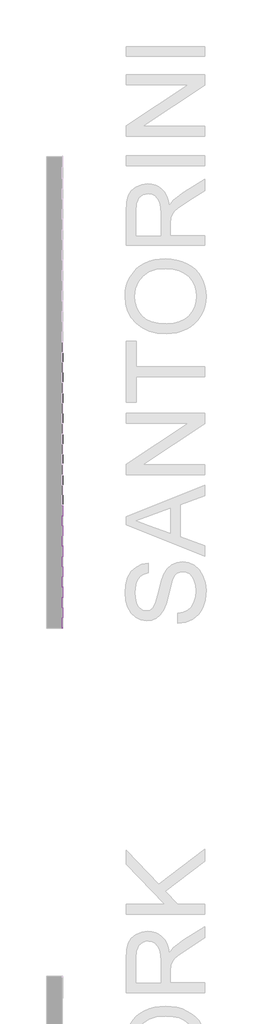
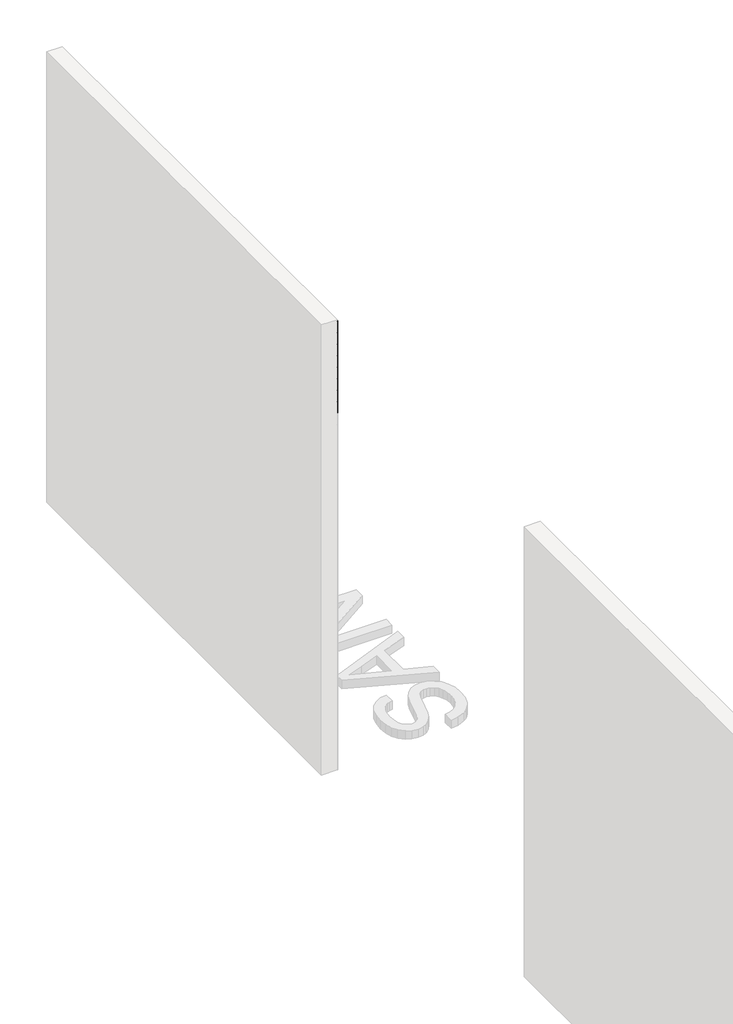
# One storey, part 28 of 45: 147 proxies.
"""IFC4 building model written with IfcOpenShell, lengths in millimetres."""

from ifc_helpers import new_model, si_unit, origin, place, context, project, spatial, transform, mapped, element, save
from components import generic_models_ab0f2c30

model = new_model("IFC4")

# Units and contexts
model_context = context("Model", 3, world=origin())
ifc_project = project(units=[si_unit("LENGTHUNIT", "METRE", prefix="MILLI")], contexts=[model_context])

# Site, building, storey
site = spatial("IfcSite", under=ifc_project)
building = spatial("IfcBuilding", under=site)
storey = spatial("IfcBuildingStorey", under=building, Name="PORTOBELLO - SHOWROOM", Elevation=0.0)

# Proxies
placement = place(None, origin())
generic_models_shape = generic_models_ab0f2c30(model_context)
element("IfcBuildingElementProxy", 1, Name="PBSHOP - HORIZONTES SANTORINI 6,5X23 : SANTORINI", ObjectType="PBSHOP - HORIZONTES SANTORINI 6,5X23 : SANTORINI", at=placement, inside=storey, context=model_context, shape_type="MappedRepresentation", body=[
    mapped(generic_models_shape, transform((69111.8826867, 11194.0312463, 34.5), x_axis=(0.0, 0.0, 1.0), y_axis=(0.0, -1.0, 0.0), z_axis=(1.0, 0.0, 0.0))),
])
element("IfcBuildingElementProxy", 2, Name="PBSHOP - HORIZONTES SANTORINI 6,5X23 : SANTORINI", ObjectType="PBSHOP - HORIZONTES SANTORINI 6,5X23 : SANTORINI", at=placement, inside=storey, context=model_context, shape_type="MappedRepresentation", body=[
    mapped(generic_models_shape, transform((69111.8826867, 11428.0312463, 34.5), x_axis=(0.0, 0.0, 1.0), y_axis=(0.0, -1.0, 0.0), z_axis=(1.0, 0.0, 0.0))),
])
element("IfcBuildingElementProxy", 3, Name="PBSHOP - HORIZONTES SANTORINI 6,5X23 : SANTORINI", ObjectType="PBSHOP - HORIZONTES SANTORINI 6,5X23 : SANTORINI", at=placement, inside=storey, context=model_context, shape_type="MappedRepresentation", body=[
    mapped(generic_models_shape, transform((69111.8826867, 11662.0312463, 34.5), x_axis=(0.0, 0.0, 1.0), y_axis=(0.0, -1.0, 0.0), z_axis=(1.0, 0.0, 0.0))),
])
element("IfcBuildingElementProxy", 4, Name="PBSHOP - HORIZONTES SANTORINI 6,5X23 : SANTORINI", ObjectType="PBSHOP - HORIZONTES SANTORINI 6,5X23 : SANTORINI", at=placement, inside=storey, context=model_context, shape_type="MappedRepresentation", body=[
    mapped(generic_models_shape, transform((69111.8826867, 11896.0312463, 34.5), x_axis=(0.0, 0.0, 1.0), y_axis=(0.0, -1.0, 0.0), z_axis=(1.0, 0.0, 0.0))),
])
element("IfcBuildingElementProxy", 5, Name="PBSHOP - HORIZONTES SANTORINI 6,5X23 : SANTORINI", ObjectType="PBSHOP - HORIZONTES SANTORINI 6,5X23 : SANTORINI", at=placement, inside=storey, context=model_context, shape_type="MappedRepresentation", body=[
    mapped(generic_models_shape, transform((69111.8826867, 11194.0312463, 103.5), x_axis=(0.0, 0.0, 1.0), y_axis=(0.0, -1.0, 0.0), z_axis=(1.0, 0.0, 0.0))),
])
element("IfcBuildingElementProxy", 6, Name="PBSHOP - HORIZONTES SANTORINI 6,5X23 : SANTORINI", ObjectType="PBSHOP - HORIZONTES SANTORINI 6,5X23 : SANTORINI", at=placement, inside=storey, context=model_context, shape_type="MappedRepresentation", body=[
    mapped(generic_models_shape, transform((69111.8826867, 11428.0312463, 103.5), x_axis=(0.0, 0.0, 1.0), y_axis=(0.0, -1.0, 0.0), z_axis=(1.0, 0.0, 0.0))),
])
element("IfcBuildingElementProxy", 7, Name="PBSHOP - HORIZONTES SANTORINI 6,5X23 : SANTORINI", ObjectType="PBSHOP - HORIZONTES SANTORINI 6,5X23 : SANTORINI", at=placement, inside=storey, context=model_context, shape_type="MappedRepresentation", body=[
    mapped(generic_models_shape, transform((69111.8826867, 11662.0312463, 103.5), x_axis=(0.0, 0.0, 1.0), y_axis=(0.0, -1.0, 0.0), z_axis=(1.0, 0.0, 0.0))),
])
element("IfcBuildingElementProxy", 8, Name="PBSHOP - HORIZONTES SANTORINI 6,5X23 : SANTORINI", ObjectType="PBSHOP - HORIZONTES SANTORINI 6,5X23 : SANTORINI", at=placement, inside=storey, context=model_context, shape_type="MappedRepresentation", body=[
    mapped(generic_models_shape, transform((69111.8826867, 11896.0312463, 103.5), x_axis=(0.0, 0.0, 1.0), y_axis=(0.0, -1.0, 0.0), z_axis=(1.0, 0.0, 0.0))),
])
element("IfcBuildingElementProxy", 9, Name="PBSHOP - HORIZONTES SANTORINI 6,5X23 : SANTORINI", ObjectType="PBSHOP - HORIZONTES SANTORINI 6,5X23 : SANTORINI", at=placement, inside=storey, context=model_context, shape_type="MappedRepresentation", body=[
    mapped(generic_models_shape, transform((69111.8826867, 11194.0312463, 172.5), x_axis=(0.0, 0.0, 1.0), y_axis=(0.0, -1.0, 0.0), z_axis=(1.0, 0.0, 0.0))),
])
element("IfcBuildingElementProxy", 10, Name="PBSHOP - HORIZONTES SANTORINI 6,5X23 : SANTORINI", ObjectType="PBSHOP - HORIZONTES SANTORINI 6,5X23 : SANTORINI", at=placement, inside=storey, context=model_context, shape_type="MappedRepresentation", body=[
    mapped(generic_models_shape, transform((69111.8826867, 11428.0312463, 172.5), x_axis=(0.0, 0.0, 1.0), y_axis=(0.0, -1.0, 0.0), z_axis=(1.0, 0.0, 0.0))),
])
element("IfcBuildingElementProxy", 11, Name="PBSHOP - HORIZONTES SANTORINI 6,5X23 : SANTORINI", ObjectType="PBSHOP - HORIZONTES SANTORINI 6,5X23 : SANTORINI", at=placement, inside=storey, context=model_context, shape_type="MappedRepresentation", body=[
    mapped(generic_models_shape, transform((69111.8826867, 11662.0312463, 172.5), x_axis=(0.0, 0.0, 1.0), y_axis=(0.0, -1.0, 0.0), z_axis=(1.0, 0.0, 0.0))),
])
element("IfcBuildingElementProxy", 12, Name="PBSHOP - HORIZONTES SANTORINI 6,5X23 : SANTORINI", ObjectType="PBSHOP - HORIZONTES SANTORINI 6,5X23 : SANTORINI", at=placement, inside=storey, context=model_context, shape_type="MappedRepresentation", body=[
    mapped(generic_models_shape, transform((69111.8826867, 11896.0312463, 172.5), x_axis=(0.0, 0.0, 1.0), y_axis=(0.0, -1.0, 0.0), z_axis=(1.0, 0.0, 0.0))),
])
element("IfcBuildingElementProxy", 13, Name="PBSHOP - HORIZONTES SANTORINI 6,5X23 : SANTORINI", ObjectType="PBSHOP - HORIZONTES SANTORINI 6,5X23 : SANTORINI", at=placement, inside=storey, context=model_context, shape_type="MappedRepresentation", body=[
    mapped(generic_models_shape, transform((69111.8826867, 11194.0312463, 241.5), x_axis=(0.0, 0.0, 1.0), y_axis=(0.0, -1.0, 0.0), z_axis=(1.0, 0.0, 0.0))),
])
element("IfcBuildingElementProxy", 14, Name="PBSHOP - HORIZONTES SANTORINI 6,5X23 : SANTORINI", ObjectType="PBSHOP - HORIZONTES SANTORINI 6,5X23 : SANTORINI", at=placement, inside=storey, context=model_context, shape_type="MappedRepresentation", body=[
    mapped(generic_models_shape, transform((69111.8826867, 11428.0312463, 241.5), x_axis=(0.0, 0.0, 1.0), y_axis=(0.0, -1.0, 0.0), z_axis=(1.0, 0.0, 0.0))),
])
element("IfcBuildingElementProxy", 15, Name="PBSHOP - HORIZONTES SANTORINI 6,5X23 : SANTORINI", ObjectType="PBSHOP - HORIZONTES SANTORINI 6,5X23 : SANTORINI", at=placement, inside=storey, context=model_context, shape_type="MappedRepresentation", body=[
    mapped(generic_models_shape, transform((69111.8826867, 11662.0312463, 241.5), x_axis=(0.0, 0.0, 1.0), y_axis=(0.0, -1.0, 0.0), z_axis=(1.0, 0.0, 0.0))),
])
element("IfcBuildingElementProxy", 16, Name="PBSHOP - HORIZONTES SANTORINI 6,5X23 : SANTORINI", ObjectType="PBSHOP - HORIZONTES SANTORINI 6,5X23 : SANTORINI", at=placement, inside=storey, context=model_context, shape_type="MappedRepresentation", body=[
    mapped(generic_models_shape, transform((69111.8826867, 11896.0312463, 241.5), x_axis=(0.0, 0.0, 1.0), y_axis=(0.0, -1.0, 0.0), z_axis=(1.0, 0.0, 0.0))),
])
element("IfcBuildingElementProxy", 17, Name="PBSHOP - HORIZONTES SANTORINI 6,5X23 : SANTORINI", ObjectType="PBSHOP - HORIZONTES SANTORINI 6,5X23 : SANTORINI", at=placement, inside=storey, context=model_context, shape_type="MappedRepresentation", body=[
    mapped(generic_models_shape, transform((69111.8826867, 11194.0312463, 310.5), x_axis=(0.0, 0.0, 1.0), y_axis=(0.0, -1.0, 0.0), z_axis=(1.0, 0.0, 0.0))),
])
element("IfcBuildingElementProxy", 18, Name="PBSHOP - HORIZONTES SANTORINI 6,5X23 : SANTORINI", ObjectType="PBSHOP - HORIZONTES SANTORINI 6,5X23 : SANTORINI", at=placement, inside=storey, context=model_context, shape_type="MappedRepresentation", body=[
    mapped(generic_models_shape, transform((69111.8826867, 11428.0312463, 310.5), x_axis=(0.0, 0.0, 1.0), y_axis=(0.0, -1.0, 0.0), z_axis=(1.0, 0.0, 0.0))),
])
element("IfcBuildingElementProxy", 19, Name="PBSHOP - HORIZONTES SANTORINI 6,5X23 : SANTORINI", ObjectType="PBSHOP - HORIZONTES SANTORINI 6,5X23 : SANTORINI", at=placement, inside=storey, context=model_context, shape_type="MappedRepresentation", body=[
    mapped(generic_models_shape, transform((69111.8826867, 11662.0312463, 310.5), x_axis=(0.0, 0.0, 1.0), y_axis=(0.0, -1.0, 0.0), z_axis=(1.0, 0.0, 0.0))),
])
element("IfcBuildingElementProxy", 20, Name="PBSHOP - HORIZONTES SANTORINI 6,5X23 : SANTORINI", ObjectType="PBSHOP - HORIZONTES SANTORINI 6,5X23 : SANTORINI", at=placement, inside=storey, context=model_context, shape_type="MappedRepresentation", body=[
    mapped(generic_models_shape, transform((69111.8826867, 11896.0312463, 310.5), x_axis=(0.0, 0.0, 1.0), y_axis=(0.0, -1.0, 0.0), z_axis=(1.0, 0.0, 0.0))),
])
element("IfcBuildingElementProxy", 21, Name="PBSHOP - HORIZONTES SANTORINI 6,5X23 : SANTORINI", ObjectType="PBSHOP - HORIZONTES SANTORINI 6,5X23 : SANTORINI", at=placement, inside=storey, context=model_context, shape_type="MappedRepresentation", body=[
    mapped(generic_models_shape, transform((69111.8826867, 11194.0312463, 379.5), x_axis=(0.0, 0.0, 1.0), y_axis=(0.0, -1.0, 0.0), z_axis=(1.0, 0.0, 0.0))),
])
element("IfcBuildingElementProxy", 22, Name="PBSHOP - HORIZONTES SANTORINI 6,5X23 : SANTORINI", ObjectType="PBSHOP - HORIZONTES SANTORINI 6,5X23 : SANTORINI", at=placement, inside=storey, context=model_context, shape_type="MappedRepresentation", body=[
    mapped(generic_models_shape, transform((69111.8826867, 11428.0312463, 379.5), x_axis=(0.0, 0.0, 1.0), y_axis=(0.0, -1.0, 0.0), z_axis=(1.0, 0.0, 0.0))),
])
element("IfcBuildingElementProxy", 23, Name="PBSHOP - HORIZONTES SANTORINI 6,5X23 : SANTORINI", ObjectType="PBSHOP - HORIZONTES SANTORINI 6,5X23 : SANTORINI", at=placement, inside=storey, context=model_context, shape_type="MappedRepresentation", body=[
    mapped(generic_models_shape, transform((69111.8826867, 11662.0312463, 379.5), x_axis=(0.0, 0.0, 1.0), y_axis=(0.0, -1.0, 0.0), z_axis=(1.0, 0.0, 0.0))),
])
element("IfcBuildingElementProxy", 24, Name="PBSHOP - HORIZONTES SANTORINI 6,5X23 : SANTORINI", ObjectType="PBSHOP - HORIZONTES SANTORINI 6,5X23 : SANTORINI", at=placement, inside=storey, context=model_context, shape_type="MappedRepresentation", body=[
    mapped(generic_models_shape, transform((69111.8826867, 11896.0312463, 379.5), x_axis=(0.0, 0.0, 1.0), y_axis=(0.0, -1.0, 0.0), z_axis=(1.0, 0.0, 0.0))),
])
element("IfcBuildingElementProxy", 25, Name="PBSHOP - HORIZONTES SANTORINI 6,5X23 : SANTORINI", ObjectType="PBSHOP - HORIZONTES SANTORINI 6,5X23 : SANTORINI", at=placement, inside=storey, context=model_context, shape_type="MappedRepresentation", body=[
    mapped(generic_models_shape, transform((69111.8826867, 11194.0312463, 448.5), x_axis=(0.0, 0.0, 1.0), y_axis=(0.0, -1.0, 0.0), z_axis=(1.0, 0.0, 0.0))),
])
element("IfcBuildingElementProxy", 26, Name="PBSHOP - HORIZONTES SANTORINI 6,5X23 : SANTORINI", ObjectType="PBSHOP - HORIZONTES SANTORINI 6,5X23 : SANTORINI", at=placement, inside=storey, context=model_context, shape_type="MappedRepresentation", body=[
    mapped(generic_models_shape, transform((69111.8826867, 11428.0312463, 448.5), x_axis=(0.0, 0.0, 1.0), y_axis=(0.0, -1.0, 0.0), z_axis=(1.0, 0.0, 0.0))),
])
element("IfcBuildingElementProxy", 27, Name="PBSHOP - HORIZONTES SANTORINI 6,5X23 : SANTORINI", ObjectType="PBSHOP - HORIZONTES SANTORINI 6,5X23 : SANTORINI", at=placement, inside=storey, context=model_context, shape_type="MappedRepresentation", body=[
    mapped(generic_models_shape, transform((69111.8826867, 11662.0312463, 448.5), x_axis=(0.0, 0.0, 1.0), y_axis=(0.0, -1.0, 0.0), z_axis=(1.0, 0.0, 0.0))),
])
element("IfcBuildingElementProxy", 28, Name="PBSHOP - HORIZONTES SANTORINI 6,5X23 : SANTORINI", ObjectType="PBSHOP - HORIZONTES SANTORINI 6,5X23 : SANTORINI", at=placement, inside=storey, context=model_context, shape_type="MappedRepresentation", body=[
    mapped(generic_models_shape, transform((69111.8826867, 11896.0312463, 448.5), x_axis=(0.0, 0.0, 1.0), y_axis=(0.0, -1.0, 0.0), z_axis=(1.0, 0.0, 0.0))),
])
element("IfcBuildingElementProxy", 29, Name="PBSHOP - HORIZONTES SANTORINI 6,5X23 : SANTORINI", ObjectType="PBSHOP - HORIZONTES SANTORINI 6,5X23 : SANTORINI", at=placement, inside=storey, context=model_context, shape_type="MappedRepresentation", body=[
    mapped(generic_models_shape, transform((69111.8826867, 11194.0312463, 517.5), x_axis=(0.0, 0.0, 1.0), y_axis=(0.0, -1.0, 0.0), z_axis=(1.0, 0.0, 0.0))),
])
element("IfcBuildingElementProxy", 30, Name="PBSHOP - HORIZONTES SANTORINI 6,5X23 : SANTORINI", ObjectType="PBSHOP - HORIZONTES SANTORINI 6,5X23 : SANTORINI", at=placement, inside=storey, context=model_context, shape_type="MappedRepresentation", body=[
    mapped(generic_models_shape, transform((69111.8826867, 11428.0312463, 517.5), x_axis=(0.0, 0.0, 1.0), y_axis=(0.0, -1.0, 0.0), z_axis=(1.0, 0.0, 0.0))),
])
element("IfcBuildingElementProxy", 31, Name="PBSHOP - HORIZONTES SANTORINI 6,5X23 : SANTORINI", ObjectType="PBSHOP - HORIZONTES SANTORINI 6,5X23 : SANTORINI", at=placement, inside=storey, context=model_context, shape_type="MappedRepresentation", body=[
    mapped(generic_models_shape, transform((69111.8826867, 11662.0312463, 517.5), x_axis=(0.0, 0.0, 1.0), y_axis=(0.0, -1.0, 0.0), z_axis=(1.0, 0.0, 0.0))),
])
element("IfcBuildingElementProxy", 32, Name="PBSHOP - HORIZONTES SANTORINI 6,5X23 : SANTORINI", ObjectType="PBSHOP - HORIZONTES SANTORINI 6,5X23 : SANTORINI", at=placement, inside=storey, context=model_context, shape_type="MappedRepresentation", body=[
    mapped(generic_models_shape, transform((69111.8826867, 11896.0312463, 517.5), x_axis=(0.0, 0.0, 1.0), y_axis=(0.0, -1.0, 0.0), z_axis=(1.0, 0.0, 0.0))),
])
element("IfcBuildingElementProxy", 33, Name="PBSHOP - HORIZONTES SANTORINI 6,5X23 : SANTORINI", ObjectType="PBSHOP - HORIZONTES SANTORINI 6,5X23 : SANTORINI", at=placement, inside=storey, context=model_context, shape_type="MappedRepresentation", body=[
    mapped(generic_models_shape, transform((69111.8826867, 11194.0312463, 586.5), x_axis=(0.0, 0.0, 1.0), y_axis=(0.0, -1.0, 0.0), z_axis=(1.0, 0.0, 0.0))),
])
element("IfcBuildingElementProxy", 34, Name="PBSHOP - HORIZONTES SANTORINI 6,5X23 : SANTORINI", ObjectType="PBSHOP - HORIZONTES SANTORINI 6,5X23 : SANTORINI", at=placement, inside=storey, context=model_context, shape_type="MappedRepresentation", body=[
    mapped(generic_models_shape, transform((69111.8826867, 11428.0312463, 586.5), x_axis=(0.0, 0.0, 1.0), y_axis=(0.0, -1.0, 0.0), z_axis=(1.0, 0.0, 0.0))),
])
element("IfcBuildingElementProxy", 35, Name="PBSHOP - HORIZONTES SANTORINI 6,5X23 : SANTORINI", ObjectType="PBSHOP - HORIZONTES SANTORINI 6,5X23 : SANTORINI", at=placement, inside=storey, context=model_context, shape_type="MappedRepresentation", body=[
    mapped(generic_models_shape, transform((69111.8826867, 11662.0312463, 586.5), x_axis=(0.0, 0.0, 1.0), y_axis=(0.0, -1.0, 0.0), z_axis=(1.0, 0.0, 0.0))),
])
element("IfcBuildingElementProxy", 36, Name="PBSHOP - HORIZONTES SANTORINI 6,5X23 : SANTORINI", ObjectType="PBSHOP - HORIZONTES SANTORINI 6,5X23 : SANTORINI", at=placement, inside=storey, context=model_context, shape_type="MappedRepresentation", body=[
    mapped(generic_models_shape, transform((69111.8826867, 11896.0312463, 586.5), x_axis=(0.0, 0.0, 1.0), y_axis=(0.0, -1.0, 0.0), z_axis=(1.0, 0.0, 0.0))),
])
element("IfcBuildingElementProxy", 37, Name="PBSHOP - HORIZONTES SANTORINI 6,5X23 : SANTORINI", ObjectType="PBSHOP - HORIZONTES SANTORINI 6,5X23 : SANTORINI", at=placement, inside=storey, context=model_context, shape_type="MappedRepresentation", body=[
    mapped(generic_models_shape, transform((69111.8826867, 11194.0312463, 655.5), x_axis=(0.0, 0.0, 1.0), y_axis=(0.0, -1.0, 0.0), z_axis=(1.0, 0.0, 0.0))),
])
element("IfcBuildingElementProxy", 38, Name="PBSHOP - HORIZONTES SANTORINI 6,5X23 : SANTORINI", ObjectType="PBSHOP - HORIZONTES SANTORINI 6,5X23 : SANTORINI", at=placement, inside=storey, context=model_context, shape_type="MappedRepresentation", body=[
    mapped(generic_models_shape, transform((69111.8826867, 11428.0312463, 655.5), x_axis=(0.0, 0.0, 1.0), y_axis=(0.0, -1.0, 0.0), z_axis=(1.0, 0.0, 0.0))),
])
element("IfcBuildingElementProxy", 39, Name="PBSHOP - HORIZONTES SANTORINI 6,5X23 : SANTORINI", ObjectType="PBSHOP - HORIZONTES SANTORINI 6,5X23 : SANTORINI", at=placement, inside=storey, context=model_context, shape_type="MappedRepresentation", body=[
    mapped(generic_models_shape, transform((69111.8826867, 11662.0312463, 655.5), x_axis=(0.0, 0.0, 1.0), y_axis=(0.0, -1.0, 0.0), z_axis=(1.0, 0.0, 0.0))),
])
element("IfcBuildingElementProxy", 40, Name="PBSHOP - HORIZONTES SANTORINI 6,5X23 : SANTORINI", ObjectType="PBSHOP - HORIZONTES SANTORINI 6,5X23 : SANTORINI", at=placement, inside=storey, context=model_context, shape_type="MappedRepresentation", body=[
    mapped(generic_models_shape, transform((69111.8826867, 11896.0312463, 655.5), x_axis=(0.0, 0.0, 1.0), y_axis=(0.0, -1.0, 0.0), z_axis=(1.0, 0.0, 0.0))),
])
element("IfcBuildingElementProxy", 41, Name="PBSHOP - HORIZONTES SANTORINI 6,5X23 : SANTORINI", ObjectType="PBSHOP - HORIZONTES SANTORINI 6,5X23 : SANTORINI", at=placement, inside=storey, context=model_context, shape_type="MappedRepresentation", body=[
    mapped(generic_models_shape, transform((69111.8826867, 11194.0312463, 724.5), x_axis=(0.0, 0.0, 1.0), y_axis=(0.0, -1.0, 0.0), z_axis=(1.0, 0.0, 0.0))),
])
element("IfcBuildingElementProxy", 42, Name="PBSHOP - HORIZONTES SANTORINI 6,5X23 : SANTORINI", ObjectType="PBSHOP - HORIZONTES SANTORINI 6,5X23 : SANTORINI", at=placement, inside=storey, context=model_context, shape_type="MappedRepresentation", body=[
    mapped(generic_models_shape, transform((69111.8826867, 11428.0312463, 724.5), x_axis=(0.0, 0.0, 1.0), y_axis=(0.0, -1.0, 0.0), z_axis=(1.0, 0.0, 0.0))),
])
element("IfcBuildingElementProxy", 43, Name="PBSHOP - HORIZONTES SANTORINI 6,5X23 : SANTORINI", ObjectType="PBSHOP - HORIZONTES SANTORINI 6,5X23 : SANTORINI", at=placement, inside=storey, context=model_context, shape_type="MappedRepresentation", body=[
    mapped(generic_models_shape, transform((69111.8826867, 11662.0312463, 724.5), x_axis=(0.0, 0.0, 1.0), y_axis=(0.0, -1.0, 0.0), z_axis=(1.0, 0.0, 0.0))),
])
element("IfcBuildingElementProxy", 44, Name="PBSHOP - HORIZONTES SANTORINI 6,5X23 : SANTORINI", ObjectType="PBSHOP - HORIZONTES SANTORINI 6,5X23 : SANTORINI", at=placement, inside=storey, context=model_context, shape_type="MappedRepresentation", body=[
    mapped(generic_models_shape, transform((69111.8826867, 11896.0312463, 724.5), x_axis=(0.0, 0.0, 1.0), y_axis=(0.0, -1.0, 0.0), z_axis=(1.0, 0.0, 0.0))),
])
element("IfcBuildingElementProxy", 45, Name="PBSHOP - HORIZONTES SANTORINI 6,5X23 : SANTORINI", ObjectType="PBSHOP - HORIZONTES SANTORINI 6,5X23 : SANTORINI", at=placement, inside=storey, context=model_context, shape_type="MappedRepresentation", body=[
    mapped(generic_models_shape, transform((69111.8826867, 11194.0312463, 793.5), x_axis=(0.0, 0.0, 1.0), y_axis=(0.0, -1.0, 0.0), z_axis=(1.0, 0.0, 0.0))),
])
element("IfcBuildingElementProxy", 46, Name="PBSHOP - HORIZONTES SANTORINI 6,5X23 : SANTORINI", ObjectType="PBSHOP - HORIZONTES SANTORINI 6,5X23 : SANTORINI", at=placement, inside=storey, context=model_context, shape_type="MappedRepresentation", body=[
    mapped(generic_models_shape, transform((69111.8826867, 11428.0312463, 793.5), x_axis=(0.0, 0.0, 1.0), y_axis=(0.0, -1.0, 0.0), z_axis=(1.0, 0.0, 0.0))),
])
element("IfcBuildingElementProxy", 47, Name="PBSHOP - HORIZONTES SANTORINI 6,5X23 : SANTORINI", ObjectType="PBSHOP - HORIZONTES SANTORINI 6,5X23 : SANTORINI", at=placement, inside=storey, context=model_context, shape_type="MappedRepresentation", body=[
    mapped(generic_models_shape, transform((69111.8826867, 11662.0312463, 793.5), x_axis=(0.0, 0.0, 1.0), y_axis=(0.0, -1.0, 0.0), z_axis=(1.0, 0.0, 0.0))),
])
element("IfcBuildingElementProxy", 48, Name="PBSHOP - HORIZONTES SANTORINI 6,5X23 : SANTORINI", ObjectType="PBSHOP - HORIZONTES SANTORINI 6,5X23 : SANTORINI", at=placement, inside=storey, context=model_context, shape_type="MappedRepresentation", body=[
    mapped(generic_models_shape, transform((69111.8826867, 11896.0312463, 793.5), x_axis=(0.0, 0.0, 1.0), y_axis=(0.0, -1.0, 0.0), z_axis=(1.0, 0.0, 0.0))),
])
element("IfcBuildingElementProxy", 49, Name="PBSHOP - HORIZONTES SANTORINI 6,5X23 : SANTORINI", ObjectType="PBSHOP - HORIZONTES SANTORINI 6,5X23 : SANTORINI", at=placement, inside=storey, context=model_context, shape_type="MappedRepresentation", body=[
    mapped(generic_models_shape, transform((69111.8826867, 11194.0312463, 862.5), x_axis=(0.0, 0.0, 1.0), y_axis=(0.0, -1.0, 0.0), z_axis=(1.0, 0.0, 0.0))),
])
element("IfcBuildingElementProxy", 50, Name="PBSHOP - HORIZONTES SANTORINI 6,5X23 : SANTORINI", ObjectType="PBSHOP - HORIZONTES SANTORINI 6,5X23 : SANTORINI", at=placement, inside=storey, context=model_context, shape_type="MappedRepresentation", body=[
    mapped(generic_models_shape, transform((69111.8826867, 11428.0312463, 862.5), x_axis=(0.0, 0.0, 1.0), y_axis=(0.0, -1.0, 0.0), z_axis=(1.0, 0.0, 0.0))),
])
element("IfcBuildingElementProxy", 51, Name="PBSHOP - HORIZONTES SANTORINI 6,5X23 : SANTORINI", ObjectType="PBSHOP - HORIZONTES SANTORINI 6,5X23 : SANTORINI", at=placement, inside=storey, context=model_context, shape_type="MappedRepresentation", body=[
    mapped(generic_models_shape, transform((69111.8826867, 11662.0312463, 862.5), x_axis=(0.0, 0.0, 1.0), y_axis=(0.0, -1.0, 0.0), z_axis=(1.0, 0.0, 0.0))),
])
element("IfcBuildingElementProxy", 52, Name="PBSHOP - HORIZONTES SANTORINI 6,5X23 : SANTORINI", ObjectType="PBSHOP - HORIZONTES SANTORINI 6,5X23 : SANTORINI", at=placement, inside=storey, context=model_context, shape_type="MappedRepresentation", body=[
    mapped(generic_models_shape, transform((69111.8826867, 11896.0312463, 862.5), x_axis=(0.0, 0.0, 1.0), y_axis=(0.0, -1.0, 0.0), z_axis=(1.0, 0.0, 0.0))),
])
element("IfcBuildingElementProxy", 53, Name="PBSHOP - HORIZONTES SANTORINI 6,5X23 : SANTORINI", ObjectType="PBSHOP - HORIZONTES SANTORINI 6,5X23 : SANTORINI", at=placement, inside=storey, context=model_context, shape_type="MappedRepresentation", body=[
    mapped(generic_models_shape, transform((69111.8826867, 11194.0312463, 931.5), x_axis=(0.0, 0.0, 1.0), y_axis=(0.0, -1.0, 0.0), z_axis=(1.0, 0.0, 0.0))),
])
element("IfcBuildingElementProxy", 54, Name="PBSHOP - HORIZONTES SANTORINI 6,5X23 : SANTORINI", ObjectType="PBSHOP - HORIZONTES SANTORINI 6,5X23 : SANTORINI", at=placement, inside=storey, context=model_context, shape_type="MappedRepresentation", body=[
    mapped(generic_models_shape, transform((69111.8826867, 11428.0312463, 931.5), x_axis=(0.0, 0.0, 1.0), y_axis=(0.0, -1.0, 0.0), z_axis=(1.0, 0.0, 0.0))),
])
element("IfcBuildingElementProxy", 55, Name="PBSHOP - HORIZONTES SANTORINI 6,5X23 : SANTORINI", ObjectType="PBSHOP - HORIZONTES SANTORINI 6,5X23 : SANTORINI", at=placement, inside=storey, context=model_context, shape_type="MappedRepresentation", body=[
    mapped(generic_models_shape, transform((69111.8826867, 11662.0312463, 931.5), x_axis=(0.0, 0.0, 1.0), y_axis=(0.0, -1.0, 0.0), z_axis=(1.0, 0.0, 0.0))),
])
element("IfcBuildingElementProxy", 56, Name="PBSHOP - HORIZONTES SANTORINI 6,5X23 : SANTORINI", ObjectType="PBSHOP - HORIZONTES SANTORINI 6,5X23 : SANTORINI", at=placement, inside=storey, context=model_context, shape_type="MappedRepresentation", body=[
    mapped(generic_models_shape, transform((69111.8826867, 11896.0312463, 931.5), x_axis=(0.0, 0.0, 1.0), y_axis=(0.0, -1.0, 0.0), z_axis=(1.0, 0.0, 0.0))),
])
element("IfcBuildingElementProxy", 57, Name="PBSHOP - HORIZONTES SANTORINI 6,5X23 : SANTORINI", ObjectType="PBSHOP - HORIZONTES SANTORINI 6,5X23 : SANTORINI", at=placement, inside=storey, context=model_context, shape_type="MappedRepresentation", body=[
    mapped(generic_models_shape, transform((69111.8826867, 11194.0312463, 1000.5), x_axis=(0.0, 0.0, 1.0), y_axis=(0.0, -1.0, 0.0), z_axis=(1.0, 0.0, 0.0))),
])
element("IfcBuildingElementProxy", 58, Name="PBSHOP - HORIZONTES SANTORINI 6,5X23 : SANTORINI", ObjectType="PBSHOP - HORIZONTES SANTORINI 6,5X23 : SANTORINI", at=placement, inside=storey, context=model_context, shape_type="MappedRepresentation", body=[
    mapped(generic_models_shape, transform((69111.8826867, 11428.0312463, 1000.5), x_axis=(0.0, 0.0, 1.0), y_axis=(0.0, -1.0, 0.0), z_axis=(1.0, 0.0, 0.0))),
])
element("IfcBuildingElementProxy", 59, Name="PBSHOP - HORIZONTES SANTORINI 6,5X23 : SANTORINI", ObjectType="PBSHOP - HORIZONTES SANTORINI 6,5X23 : SANTORINI", at=placement, inside=storey, context=model_context, shape_type="MappedRepresentation", body=[
    mapped(generic_models_shape, transform((69111.8826867, 11662.0312463, 1000.5), x_axis=(0.0, 0.0, 1.0), y_axis=(0.0, -1.0, 0.0), z_axis=(1.0, 0.0, 0.0))),
])
element("IfcBuildingElementProxy", 60, Name="PBSHOP - HORIZONTES SANTORINI 6,5X23 : SANTORINI", ObjectType="PBSHOP - HORIZONTES SANTORINI 6,5X23 : SANTORINI", at=placement, inside=storey, context=model_context, shape_type="MappedRepresentation", body=[
    mapped(generic_models_shape, transform((69111.8826867, 11896.0312463, 1000.5), x_axis=(0.0, 0.0, 1.0), y_axis=(0.0, -1.0, 0.0), z_axis=(1.0, 0.0, 0.0))),
])
element("IfcBuildingElementProxy", 61, Name="PBSHOP - HORIZONTES SANTORINI 6,5X23 : SANTORINI", ObjectType="PBSHOP - HORIZONTES SANTORINI 6,5X23 : SANTORINI", at=placement, inside=storey, context=model_context, shape_type="MappedRepresentation", body=[
    mapped(generic_models_shape, transform((69111.8826867, 11194.0312463, 1069.5), x_axis=(0.0, 0.0, 1.0), y_axis=(0.0, -1.0, 0.0), z_axis=(1.0, 0.0, 0.0))),
])
element("IfcBuildingElementProxy", 62, Name="PBSHOP - HORIZONTES SANTORINI 6,5X23 : SANTORINI", ObjectType="PBSHOP - HORIZONTES SANTORINI 6,5X23 : SANTORINI", at=placement, inside=storey, context=model_context, shape_type="MappedRepresentation", body=[
    mapped(generic_models_shape, transform((69111.8826867, 11428.0312463, 1069.5), x_axis=(0.0, 0.0, 1.0), y_axis=(0.0, -1.0, 0.0), z_axis=(1.0, 0.0, 0.0))),
])
element("IfcBuildingElementProxy", 63, Name="PBSHOP - HORIZONTES SANTORINI 6,5X23 : SANTORINI", ObjectType="PBSHOP - HORIZONTES SANTORINI 6,5X23 : SANTORINI", at=placement, inside=storey, context=model_context, shape_type="MappedRepresentation", body=[
    mapped(generic_models_shape, transform((69111.8826867, 11662.0312463, 1069.5), x_axis=(0.0, 0.0, 1.0), y_axis=(0.0, -1.0, 0.0), z_axis=(1.0, 0.0, 0.0))),
])
element("IfcBuildingElementProxy", 64, Name="PBSHOP - HORIZONTES SANTORINI 6,5X23 : SANTORINI", ObjectType="PBSHOP - HORIZONTES SANTORINI 6,5X23 : SANTORINI", at=placement, inside=storey, context=model_context, shape_type="MappedRepresentation", body=[
    mapped(generic_models_shape, transform((69111.8826867, 11896.0312463, 1069.5), x_axis=(0.0, 0.0, 1.0), y_axis=(0.0, -1.0, 0.0), z_axis=(1.0, 0.0, 0.0))),
])
element("IfcBuildingElementProxy", 65, Name="PBSHOP - HORIZONTES SANTORINI 6,5X23 : SANTORINI", ObjectType="PBSHOP - HORIZONTES SANTORINI 6,5X23 : SANTORINI", at=placement, inside=storey, context=model_context, shape_type="MappedRepresentation", body=[
    mapped(generic_models_shape, transform((69111.8826867, 11194.0312463, 1138.5), x_axis=(0.0, 0.0, 1.0), y_axis=(0.0, -1.0, 0.0), z_axis=(1.0, 0.0, 0.0))),
])
element("IfcBuildingElementProxy", 66, Name="PBSHOP - HORIZONTES SANTORINI 6,5X23 : SANTORINI", ObjectType="PBSHOP - HORIZONTES SANTORINI 6,5X23 : SANTORINI", at=placement, inside=storey, context=model_context, shape_type="MappedRepresentation", body=[
    mapped(generic_models_shape, transform((69111.8826867, 11428.0312463, 1138.5), x_axis=(0.0, 0.0, 1.0), y_axis=(0.0, -1.0, 0.0), z_axis=(1.0, 0.0, 0.0))),
])
element("IfcBuildingElementProxy", 67, Name="PBSHOP - HORIZONTES SANTORINI 6,5X23 : SANTORINI", ObjectType="PBSHOP - HORIZONTES SANTORINI 6,5X23 : SANTORINI", at=placement, inside=storey, context=model_context, shape_type="MappedRepresentation", body=[
    mapped(generic_models_shape, transform((69111.8826867, 11662.0312463, 1138.5), x_axis=(0.0, 0.0, 1.0), y_axis=(0.0, -1.0, 0.0), z_axis=(1.0, 0.0, 0.0))),
])
element("IfcBuildingElementProxy", 68, Name="PBSHOP - HORIZONTES SANTORINI 6,5X23 : SANTORINI", ObjectType="PBSHOP - HORIZONTES SANTORINI 6,5X23 : SANTORINI", at=placement, inside=storey, context=model_context, shape_type="MappedRepresentation", body=[
    mapped(generic_models_shape, transform((69111.8826867, 11896.0312463, 1138.5), x_axis=(0.0, 0.0, 1.0), y_axis=(0.0, -1.0, 0.0), z_axis=(1.0, 0.0, 0.0))),
])
element("IfcBuildingElementProxy", 69, Name="PBSHOP - HORIZONTES SANTORINI 6,5X23 : SANTORINI", ObjectType="PBSHOP - HORIZONTES SANTORINI 6,5X23 : SANTORINI", at=placement, inside=storey, context=model_context, shape_type="MappedRepresentation", body=[
    mapped(generic_models_shape, transform((69111.8826867, 11194.0312463, 1207.5), x_axis=(0.0, 0.0, 1.0), y_axis=(0.0, -1.0, 0.0), z_axis=(1.0, 0.0, 0.0))),
])
element("IfcBuildingElementProxy", 70, Name="PBSHOP - HORIZONTES SANTORINI 6,5X23 : SANTORINI", ObjectType="PBSHOP - HORIZONTES SANTORINI 6,5X23 : SANTORINI", at=placement, inside=storey, context=model_context, shape_type="MappedRepresentation", body=[
    mapped(generic_models_shape, transform((69111.8826867, 11428.0312463, 1207.5), x_axis=(0.0, 0.0, 1.0), y_axis=(0.0, -1.0, 0.0), z_axis=(1.0, 0.0, 0.0))),
])
element("IfcBuildingElementProxy", 71, Name="PBSHOP - HORIZONTES SANTORINI 6,5X23 : SANTORINI", ObjectType="PBSHOP - HORIZONTES SANTORINI 6,5X23 : SANTORINI", at=placement, inside=storey, context=model_context, shape_type="MappedRepresentation", body=[
    mapped(generic_models_shape, transform((69111.8826867, 11662.0312463, 1207.5), x_axis=(0.0, 0.0, 1.0), y_axis=(0.0, -1.0, 0.0), z_axis=(1.0, 0.0, 0.0))),
])
element("IfcBuildingElementProxy", 72, Name="PBSHOP - HORIZONTES SANTORINI 6,5X23 : SANTORINI", ObjectType="PBSHOP - HORIZONTES SANTORINI 6,5X23 : SANTORINI", at=placement, inside=storey, context=model_context, shape_type="MappedRepresentation", body=[
    mapped(generic_models_shape, transform((69111.8826867, 11896.0312463, 1207.5), x_axis=(0.0, 0.0, 1.0), y_axis=(0.0, -1.0, 0.0), z_axis=(1.0, 0.0, 0.0))),
])
element("IfcBuildingElementProxy", 73, Name="PBSHOP - HORIZONTES SANTORINI 6,5X23 : SANTORINI", ObjectType="PBSHOP - HORIZONTES SANTORINI 6,5X23 : SANTORINI", at=placement, inside=storey, context=model_context, shape_type="MappedRepresentation", body=[
    mapped(generic_models_shape, transform((69111.8826867, 11194.0312463, 1276.5), x_axis=(0.0, 0.0, 1.0), y_axis=(0.0, -1.0, 0.0), z_axis=(1.0, 0.0, 0.0))),
])
element("IfcBuildingElementProxy", 74, Name="PBSHOP - HORIZONTES SANTORINI 6,5X23 : SANTORINI", ObjectType="PBSHOP - HORIZONTES SANTORINI 6,5X23 : SANTORINI", at=placement, inside=storey, context=model_context, shape_type="MappedRepresentation", body=[
    mapped(generic_models_shape, transform((69111.8826867, 11428.0312463, 1276.5), x_axis=(0.0, 0.0, 1.0), y_axis=(0.0, -1.0, 0.0), z_axis=(1.0, 0.0, 0.0))),
])
element("IfcBuildingElementProxy", 75, Name="PBSHOP - HORIZONTES SANTORINI 6,5X23 : SANTORINI", ObjectType="PBSHOP - HORIZONTES SANTORINI 6,5X23 : SANTORINI", at=placement, inside=storey, context=model_context, shape_type="MappedRepresentation", body=[
    mapped(generic_models_shape, transform((69111.8826867, 11662.0312463, 1276.5), x_axis=(0.0, 0.0, 1.0), y_axis=(0.0, -1.0, 0.0), z_axis=(1.0, 0.0, 0.0))),
])
element("IfcBuildingElementProxy", 76, Name="PBSHOP - HORIZONTES SANTORINI 6,5X23 : SANTORINI", ObjectType="PBSHOP - HORIZONTES SANTORINI 6,5X23 : SANTORINI", at=placement, inside=storey, context=model_context, shape_type="MappedRepresentation", body=[
    mapped(generic_models_shape, transform((69111.8826867, 11896.0312463, 1276.5), x_axis=(0.0, 0.0, 1.0), y_axis=(0.0, -1.0, 0.0), z_axis=(1.0, 0.0, 0.0))),
])
element("IfcBuildingElementProxy", 77, Name="PBSHOP - HORIZONTES SANTORINI 6,5X23 : SANTORINI", ObjectType="PBSHOP - HORIZONTES SANTORINI 6,5X23 : SANTORINI", at=placement, inside=storey, context=model_context, shape_type="MappedRepresentation", body=[
    mapped(generic_models_shape, transform((69111.8826867, 11194.0312463, 1345.5), x_axis=(0.0, 0.0, 1.0), y_axis=(0.0, -1.0, 0.0), z_axis=(1.0, 0.0, 0.0))),
])
element("IfcBuildingElementProxy", 78, Name="PBSHOP - HORIZONTES SANTORINI 6,5X23 : SANTORINI", ObjectType="PBSHOP - HORIZONTES SANTORINI 6,5X23 : SANTORINI", at=placement, inside=storey, context=model_context, shape_type="MappedRepresentation", body=[
    mapped(generic_models_shape, transform((69111.8826867, 11428.0312463, 1345.5), x_axis=(0.0, 0.0, 1.0), y_axis=(0.0, -1.0, 0.0), z_axis=(1.0, 0.0, 0.0))),
])
element("IfcBuildingElementProxy", 79, Name="PBSHOP - HORIZONTES SANTORINI 6,5X23 : SANTORINI", ObjectType="PBSHOP - HORIZONTES SANTORINI 6,5X23 : SANTORINI", at=placement, inside=storey, context=model_context, shape_type="MappedRepresentation", body=[
    mapped(generic_models_shape, transform((69111.8826867, 11662.0312463, 1345.5), x_axis=(0.0, 0.0, 1.0), y_axis=(0.0, -1.0, 0.0), z_axis=(1.0, 0.0, 0.0))),
])
element("IfcBuildingElementProxy", 80, Name="PBSHOP - HORIZONTES SANTORINI 6,5X23 : SANTORINI", ObjectType="PBSHOP - HORIZONTES SANTORINI 6,5X23 : SANTORINI", at=placement, inside=storey, context=model_context, shape_type="MappedRepresentation", body=[
    mapped(generic_models_shape, transform((69111.8826867, 11896.0312463, 1345.5), x_axis=(0.0, 0.0, 1.0), y_axis=(0.0, -1.0, 0.0), z_axis=(1.0, 0.0, 0.0))),
])
element("IfcBuildingElementProxy", 81, Name="PBSHOP - HORIZONTES SANTORINI 6,5X23 : SANTORINI", ObjectType="PBSHOP - HORIZONTES SANTORINI 6,5X23 : SANTORINI", at=placement, inside=storey, context=model_context, shape_type="MappedRepresentation", body=[
    mapped(generic_models_shape, transform((69111.8826867, 11194.0312463, 1414.5), x_axis=(0.0, 0.0, 1.0), y_axis=(0.0, -1.0, 0.0), z_axis=(1.0, 0.0, 0.0))),
])
element("IfcBuildingElementProxy", 82, Name="PBSHOP - HORIZONTES SANTORINI 6,5X23 : SANTORINI", ObjectType="PBSHOP - HORIZONTES SANTORINI 6,5X23 : SANTORINI", at=placement, inside=storey, context=model_context, shape_type="MappedRepresentation", body=[
    mapped(generic_models_shape, transform((69111.8826867, 11428.0312463, 1414.5), x_axis=(0.0, 0.0, 1.0), y_axis=(0.0, -1.0, 0.0), z_axis=(1.0, 0.0, 0.0))),
])
element("IfcBuildingElementProxy", 83, Name="PBSHOP - HORIZONTES SANTORINI 6,5X23 : SANTORINI", ObjectType="PBSHOP - HORIZONTES SANTORINI 6,5X23 : SANTORINI", at=placement, inside=storey, context=model_context, shape_type="MappedRepresentation", body=[
    mapped(generic_models_shape, transform((69111.8826867, 11662.0312463, 1414.5), x_axis=(0.0, 0.0, 1.0), y_axis=(0.0, -1.0, 0.0), z_axis=(1.0, 0.0, 0.0))),
])
element("IfcBuildingElementProxy", 84, Name="PBSHOP - HORIZONTES SANTORINI 6,5X23 : SANTORINI", ObjectType="PBSHOP - HORIZONTES SANTORINI 6,5X23 : SANTORINI", at=placement, inside=storey, context=model_context, shape_type="MappedRepresentation", body=[
    mapped(generic_models_shape, transform((69111.8826867, 11896.0312463, 1414.5), x_axis=(0.0, 0.0, 1.0), y_axis=(0.0, -1.0, 0.0), z_axis=(1.0, 0.0, 0.0))),
])
element("IfcBuildingElementProxy", 85, Name="PBSHOP - HORIZONTES SANTORINI 6,5X23 : SANTORINI", ObjectType="PBSHOP - HORIZONTES SANTORINI 6,5X23 : SANTORINI", at=placement, inside=storey, context=model_context, shape_type="MappedRepresentation", body=[
    mapped(generic_models_shape, transform((69111.8826867, 11194.0312463, 1483.5), x_axis=(0.0, 0.0, 1.0), y_axis=(0.0, -1.0, 0.0), z_axis=(1.0, 0.0, 0.0))),
])
element("IfcBuildingElementProxy", 86, Name="PBSHOP - HORIZONTES SANTORINI 6,5X23 : SANTORINI", ObjectType="PBSHOP - HORIZONTES SANTORINI 6,5X23 : SANTORINI", at=placement, inside=storey, context=model_context, shape_type="MappedRepresentation", body=[
    mapped(generic_models_shape, transform((69111.8826867, 11428.0312463, 1483.5), x_axis=(0.0, 0.0, 1.0), y_axis=(0.0, -1.0, 0.0), z_axis=(1.0, 0.0, 0.0))),
])
element("IfcBuildingElementProxy", 87, Name="PBSHOP - HORIZONTES SANTORINI 6,5X23 : SANTORINI", ObjectType="PBSHOP - HORIZONTES SANTORINI 6,5X23 : SANTORINI", at=placement, inside=storey, context=model_context, shape_type="MappedRepresentation", body=[
    mapped(generic_models_shape, transform((69111.8826867, 11662.0312463, 1483.5), x_axis=(0.0, 0.0, 1.0), y_axis=(0.0, -1.0, 0.0), z_axis=(1.0, 0.0, 0.0))),
])
element("IfcBuildingElementProxy", 88, Name="PBSHOP - HORIZONTES SANTORINI 6,5X23 : SANTORINI", ObjectType="PBSHOP - HORIZONTES SANTORINI 6,5X23 : SANTORINI", at=placement, inside=storey, context=model_context, shape_type="MappedRepresentation", body=[
    mapped(generic_models_shape, transform((69111.8826867, 11896.0312463, 1483.5), x_axis=(0.0, 0.0, 1.0), y_axis=(0.0, -1.0, 0.0), z_axis=(1.0, 0.0, 0.0))),
])
element("IfcBuildingElementProxy", 89, Name="PBSHOP - HORIZONTES SANTORINI 6,5X23 : SANTORINI", ObjectType="PBSHOP - HORIZONTES SANTORINI 6,5X23 : SANTORINI", at=placement, inside=storey, context=model_context, shape_type="MappedRepresentation", body=[
    mapped(generic_models_shape, transform((69111.8826867, 11194.0312463, 1552.5), x_axis=(0.0, 0.0, 1.0), y_axis=(0.0, -1.0, 0.0), z_axis=(1.0, 0.0, 0.0))),
])
element("IfcBuildingElementProxy", 90, Name="PBSHOP - HORIZONTES SANTORINI 6,5X23 : SANTORINI", ObjectType="PBSHOP - HORIZONTES SANTORINI 6,5X23 : SANTORINI", at=placement, inside=storey, context=model_context, shape_type="MappedRepresentation", body=[
    mapped(generic_models_shape, transform((69111.8826867, 11428.0312463, 1552.5), x_axis=(0.0, 0.0, 1.0), y_axis=(0.0, -1.0, 0.0), z_axis=(1.0, 0.0, 0.0))),
])
element("IfcBuildingElementProxy", 91, Name="PBSHOP - HORIZONTES SANTORINI 6,5X23 : SANTORINI", ObjectType="PBSHOP - HORIZONTES SANTORINI 6,5X23 : SANTORINI", at=placement, inside=storey, context=model_context, shape_type="MappedRepresentation", body=[
    mapped(generic_models_shape, transform((69111.8826867, 11662.0312463, 1552.5), x_axis=(0.0, 0.0, 1.0), y_axis=(0.0, -1.0, 0.0), z_axis=(1.0, 0.0, 0.0))),
])
element("IfcBuildingElementProxy", 92, Name="PBSHOP - HORIZONTES SANTORINI 6,5X23 : SANTORINI", ObjectType="PBSHOP - HORIZONTES SANTORINI 6,5X23 : SANTORINI", at=placement, inside=storey, context=model_context, shape_type="MappedRepresentation", body=[
    mapped(generic_models_shape, transform((69111.8826867, 11896.0312463, 1552.5), x_axis=(0.0, 0.0, 1.0), y_axis=(0.0, -1.0, 0.0), z_axis=(1.0, 0.0, 0.0))),
])
element("IfcBuildingElementProxy", 93, Name="PBSHOP - HORIZONTES SANTORINI 6,5X23 : SANTORINI", ObjectType="PBSHOP - HORIZONTES SANTORINI 6,5X23 : SANTORINI", at=placement, inside=storey, context=model_context, shape_type="MappedRepresentation", body=[
    mapped(generic_models_shape, transform((69111.8826867, 11194.0312463, 1621.5), x_axis=(0.0, 0.0, 1.0), y_axis=(0.0, -1.0, 0.0), z_axis=(1.0, 0.0, 0.0))),
])
element("IfcBuildingElementProxy", 94, Name="PBSHOP - HORIZONTES SANTORINI 6,5X23 : SANTORINI", ObjectType="PBSHOP - HORIZONTES SANTORINI 6,5X23 : SANTORINI", at=placement, inside=storey, context=model_context, shape_type="MappedRepresentation", body=[
    mapped(generic_models_shape, transform((69111.8826867, 11428.0312463, 1621.5), x_axis=(0.0, 0.0, 1.0), y_axis=(0.0, -1.0, 0.0), z_axis=(1.0, 0.0, 0.0))),
])
element("IfcBuildingElementProxy", 95, Name="PBSHOP - HORIZONTES SANTORINI 6,5X23 : SANTORINI", ObjectType="PBSHOP - HORIZONTES SANTORINI 6,5X23 : SANTORINI", at=placement, inside=storey, context=model_context, shape_type="MappedRepresentation", body=[
    mapped(generic_models_shape, transform((69111.8826867, 11662.0312463, 1621.5), x_axis=(0.0, 0.0, 1.0), y_axis=(0.0, -1.0, 0.0), z_axis=(1.0, 0.0, 0.0))),
])
element("IfcBuildingElementProxy", 96, Name="PBSHOP - HORIZONTES SANTORINI 6,5X23 : SANTORINI", ObjectType="PBSHOP - HORIZONTES SANTORINI 6,5X23 : SANTORINI", at=placement, inside=storey, context=model_context, shape_type="MappedRepresentation", body=[
    mapped(generic_models_shape, transform((69111.8826867, 11896.0312463, 1621.5), x_axis=(0.0, 0.0, 1.0), y_axis=(0.0, -1.0, 0.0), z_axis=(1.0, 0.0, 0.0))),
])
element("IfcBuildingElementProxy", 97, Name="PBSHOP - HORIZONTES SANTORINI 6,5X23 : SANTORINI", ObjectType="PBSHOP - HORIZONTES SANTORINI 6,5X23 : SANTORINI", at=placement, inside=storey, context=model_context, shape_type="MappedRepresentation", body=[
    mapped(generic_models_shape, transform((69111.8826867, 11194.0312463, 1690.5), x_axis=(0.0, 0.0, 1.0), y_axis=(0.0, -1.0, 0.0), z_axis=(1.0, 0.0, 0.0))),
])
element("IfcBuildingElementProxy", 98, Name="PBSHOP - HORIZONTES SANTORINI 6,5X23 : SANTORINI", ObjectType="PBSHOP - HORIZONTES SANTORINI 6,5X23 : SANTORINI", at=placement, inside=storey, context=model_context, shape_type="MappedRepresentation", body=[
    mapped(generic_models_shape, transform((69111.8826867, 11428.0312463, 1690.5), x_axis=(0.0, 0.0, 1.0), y_axis=(0.0, -1.0, 0.0), z_axis=(1.0, 0.0, 0.0))),
])
element("IfcBuildingElementProxy", 99, Name="PBSHOP - HORIZONTES SANTORINI 6,5X23 : SANTORINI", ObjectType="PBSHOP - HORIZONTES SANTORINI 6,5X23 : SANTORINI", at=placement, inside=storey, context=model_context, shape_type="MappedRepresentation", body=[
    mapped(generic_models_shape, transform((69111.8826867, 11662.0312463, 1690.5), x_axis=(0.0, 0.0, 1.0), y_axis=(0.0, -1.0, 0.0), z_axis=(1.0, 0.0, 0.0))),
])
element("IfcBuildingElementProxy", 100, Name="PBSHOP - HORIZONTES SANTORINI 6,5X23 : SANTORINI", ObjectType="PBSHOP - HORIZONTES SANTORINI 6,5X23 : SANTORINI", at=placement, inside=storey, context=model_context, shape_type="MappedRepresentation", body=[
    mapped(generic_models_shape, transform((69111.8826867, 11896.0312463, 1690.5), x_axis=(0.0, 0.0, 1.0), y_axis=(0.0, -1.0, 0.0), z_axis=(1.0, 0.0, 0.0))),
])
element("IfcBuildingElementProxy", 101, Name="PBSHOP - HORIZONTES SANTORINI 6,5X23 : SANTORINI", ObjectType="PBSHOP - HORIZONTES SANTORINI 6,5X23 : SANTORINI", at=placement, inside=storey, context=model_context, shape_type="MappedRepresentation", body=[
    mapped(generic_models_shape, transform((69111.8826867, 11194.0312463, 1759.5), x_axis=(0.0, 0.0, 1.0), y_axis=(0.0, -1.0, 0.0), z_axis=(1.0, 0.0, 0.0))),
])
element("IfcBuildingElementProxy", 102, Name="PBSHOP - HORIZONTES SANTORINI 6,5X23 : SANTORINI", ObjectType="PBSHOP - HORIZONTES SANTORINI 6,5X23 : SANTORINI", at=placement, inside=storey, context=model_context, shape_type="MappedRepresentation", body=[
    mapped(generic_models_shape, transform((69111.8826867, 11428.0312463, 1759.5), x_axis=(0.0, 0.0, 1.0), y_axis=(0.0, -1.0, 0.0), z_axis=(1.0, 0.0, 0.0))),
])
element("IfcBuildingElementProxy", 103, Name="PBSHOP - HORIZONTES SANTORINI 6,5X23 : SANTORINI", ObjectType="PBSHOP - HORIZONTES SANTORINI 6,5X23 : SANTORINI", at=placement, inside=storey, context=model_context, shape_type="MappedRepresentation", body=[
    mapped(generic_models_shape, transform((69111.8826867, 11662.0312463, 1759.5), x_axis=(0.0, 0.0, 1.0), y_axis=(0.0, -1.0, 0.0), z_axis=(1.0, 0.0, 0.0))),
])
element("IfcBuildingElementProxy", 104, Name="PBSHOP - HORIZONTES SANTORINI 6,5X23 : SANTORINI", ObjectType="PBSHOP - HORIZONTES SANTORINI 6,5X23 : SANTORINI", at=placement, inside=storey, context=model_context, shape_type="MappedRepresentation", body=[
    mapped(generic_models_shape, transform((69111.8826867, 11896.0312463, 1759.5), x_axis=(0.0, 0.0, 1.0), y_axis=(0.0, -1.0, 0.0), z_axis=(1.0, 0.0, 0.0))),
])
element("IfcBuildingElementProxy", 105, Name="PBSHOP - HORIZONTES SANTORINI 6,5X23 : SANTORINI", ObjectType="PBSHOP - HORIZONTES SANTORINI 6,5X23 : SANTORINI", at=placement, inside=storey, context=model_context, shape_type="MappedRepresentation", body=[
    mapped(generic_models_shape, transform((69111.8826867, 11194.0312463, 1828.5), x_axis=(0.0, 0.0, 1.0), y_axis=(0.0, -1.0, 0.0), z_axis=(1.0, 0.0, 0.0))),
])
element("IfcBuildingElementProxy", 106, Name="PBSHOP - HORIZONTES SANTORINI 6,5X23 : SANTORINI", ObjectType="PBSHOP - HORIZONTES SANTORINI 6,5X23 : SANTORINI", at=placement, inside=storey, context=model_context, shape_type="MappedRepresentation", body=[
    mapped(generic_models_shape, transform((69111.8826867, 11428.0312463, 1828.5), x_axis=(0.0, 0.0, 1.0), y_axis=(0.0, -1.0, 0.0), z_axis=(1.0, 0.0, 0.0))),
])
element("IfcBuildingElementProxy", 107, Name="PBSHOP - HORIZONTES SANTORINI 6,5X23 : SANTORINI", ObjectType="PBSHOP - HORIZONTES SANTORINI 6,5X23 : SANTORINI", at=placement, inside=storey, context=model_context, shape_type="MappedRepresentation", body=[
    mapped(generic_models_shape, transform((69111.8826867, 11662.0312463, 1828.5), x_axis=(0.0, 0.0, 1.0), y_axis=(0.0, -1.0, 0.0), z_axis=(1.0, 0.0, 0.0))),
])
element("IfcBuildingElementProxy", 108, Name="PBSHOP - HORIZONTES SANTORINI 6,5X23 : SANTORINI", ObjectType="PBSHOP - HORIZONTES SANTORINI 6,5X23 : SANTORINI", at=placement, inside=storey, context=model_context, shape_type="MappedRepresentation", body=[
    mapped(generic_models_shape, transform((69111.8826867, 11896.0312463, 1828.5), x_axis=(0.0, 0.0, 1.0), y_axis=(0.0, -1.0, 0.0), z_axis=(1.0, 0.0, 0.0))),
])
element("IfcBuildingElementProxy", 109, Name="PBSHOP - HORIZONTES SANTORINI 6,5X23 : SANTORINI", ObjectType="PBSHOP - HORIZONTES SANTORINI 6,5X23 : SANTORINI", at=placement, inside=storey, context=model_context, shape_type="MappedRepresentation", body=[
    mapped(generic_models_shape, transform((69111.8826867, 11194.0312463, 1897.5), x_axis=(0.0, 0.0, 1.0), y_axis=(0.0, -1.0, 0.0), z_axis=(1.0, 0.0, 0.0))),
])
element("IfcBuildingElementProxy", 110, Name="PBSHOP - HORIZONTES SANTORINI 6,5X23 : SANTORINI", ObjectType="PBSHOP - HORIZONTES SANTORINI 6,5X23 : SANTORINI", at=placement, inside=storey, context=model_context, shape_type="MappedRepresentation", body=[
    mapped(generic_models_shape, transform((69111.8826867, 11428.0312463, 1897.5), x_axis=(0.0, 0.0, 1.0), y_axis=(0.0, -1.0, 0.0), z_axis=(1.0, 0.0, 0.0))),
])
element("IfcBuildingElementProxy", 111, Name="PBSHOP - HORIZONTES SANTORINI 6,5X23 : SANTORINI", ObjectType="PBSHOP - HORIZONTES SANTORINI 6,5X23 : SANTORINI", at=placement, inside=storey, context=model_context, shape_type="MappedRepresentation", body=[
    mapped(generic_models_shape, transform((69111.8826867, 11662.0312463, 1897.5), x_axis=(0.0, 0.0, 1.0), y_axis=(0.0, -1.0, 0.0), z_axis=(1.0, 0.0, 0.0))),
])
element("IfcBuildingElementProxy", 112, Name="PBSHOP - HORIZONTES SANTORINI 6,5X23 : SANTORINI", ObjectType="PBSHOP - HORIZONTES SANTORINI 6,5X23 : SANTORINI", at=placement, inside=storey, context=model_context, shape_type="MappedRepresentation", body=[
    mapped(generic_models_shape, transform((69111.8826867, 11896.0312463, 1897.5), x_axis=(0.0, 0.0, 1.0), y_axis=(0.0, -1.0, 0.0), z_axis=(1.0, 0.0, 0.0))),
])
element("IfcBuildingElementProxy", 113, Name="PBSHOP - HORIZONTES SANTORINI 6,5X23 : SANTORINI", ObjectType="PBSHOP - HORIZONTES SANTORINI 6,5X23 : SANTORINI", at=placement, inside=storey, context=model_context, shape_type="MappedRepresentation", body=[
    mapped(generic_models_shape, transform((69111.8826867, 11194.0312463, 1966.5), x_axis=(0.0, 0.0, 1.0), y_axis=(0.0, -1.0, 0.0), z_axis=(1.0, 0.0, 0.0))),
])
element("IfcBuildingElementProxy", 114, Name="PBSHOP - HORIZONTES SANTORINI 6,5X23 : SANTORINI", ObjectType="PBSHOP - HORIZONTES SANTORINI 6,5X23 : SANTORINI", at=placement, inside=storey, context=model_context, shape_type="MappedRepresentation", body=[
    mapped(generic_models_shape, transform((69111.8826867, 11428.0312463, 1966.5), x_axis=(0.0, 0.0, 1.0), y_axis=(0.0, -1.0, 0.0), z_axis=(1.0, 0.0, 0.0))),
])
element("IfcBuildingElementProxy", 115, Name="PBSHOP - HORIZONTES SANTORINI 6,5X23 : SANTORINI", ObjectType="PBSHOP - HORIZONTES SANTORINI 6,5X23 : SANTORINI", at=placement, inside=storey, context=model_context, shape_type="MappedRepresentation", body=[
    mapped(generic_models_shape, transform((69111.8826867, 11662.0312463, 1966.5), x_axis=(0.0, 0.0, 1.0), y_axis=(0.0, -1.0, 0.0), z_axis=(1.0, 0.0, 0.0))),
])
element("IfcBuildingElementProxy", 116, Name="PBSHOP - HORIZONTES SANTORINI 6,5X23 : SANTORINI", ObjectType="PBSHOP - HORIZONTES SANTORINI 6,5X23 : SANTORINI", at=placement, inside=storey, context=model_context, shape_type="MappedRepresentation", body=[
    mapped(generic_models_shape, transform((69111.8826867, 11896.0312463, 1966.5), x_axis=(0.0, 0.0, 1.0), y_axis=(0.0, -1.0, 0.0), z_axis=(1.0, 0.0, 0.0))),
])
element("IfcBuildingElementProxy", 117, Name="PBSHOP - HORIZONTES SANTORINI 6,5X23 : SANTORINI", ObjectType="PBSHOP - HORIZONTES SANTORINI 6,5X23 : SANTORINI", at=placement, inside=storey, context=model_context, shape_type="MappedRepresentation", body=[
    mapped(generic_models_shape, transform((69111.8826867, 11194.0312463, 2035.5), x_axis=(0.0, 0.0, 1.0), y_axis=(0.0, -1.0, 0.0), z_axis=(1.0, 0.0, 0.0))),
])
element("IfcBuildingElementProxy", 118, Name="PBSHOP - HORIZONTES SANTORINI 6,5X23 : SANTORINI", ObjectType="PBSHOP - HORIZONTES SANTORINI 6,5X23 : SANTORINI", at=placement, inside=storey, context=model_context, shape_type="MappedRepresentation", body=[
    mapped(generic_models_shape, transform((69111.8826867, 11428.0312463, 2035.5), x_axis=(0.0, 0.0, 1.0), y_axis=(0.0, -1.0, 0.0), z_axis=(1.0, 0.0, 0.0))),
])
element("IfcBuildingElementProxy", 119, Name="PBSHOP - HORIZONTES SANTORINI 6,5X23 : SANTORINI", ObjectType="PBSHOP - HORIZONTES SANTORINI 6,5X23 : SANTORINI", at=placement, inside=storey, context=model_context, shape_type="MappedRepresentation", body=[
    mapped(generic_models_shape, transform((69111.8826867, 11662.0312463, 2035.5), x_axis=(0.0, 0.0, 1.0), y_axis=(0.0, -1.0, 0.0), z_axis=(1.0, 0.0, 0.0))),
])
element("IfcBuildingElementProxy", 120, Name="PBSHOP - HORIZONTES SANTORINI 6,5X23 : SANTORINI", ObjectType="PBSHOP - HORIZONTES SANTORINI 6,5X23 : SANTORINI", at=placement, inside=storey, context=model_context, shape_type="MappedRepresentation", body=[
    mapped(generic_models_shape, transform((69111.8826867, 11896.0312463, 2035.5), x_axis=(0.0, 0.0, 1.0), y_axis=(0.0, -1.0, 0.0), z_axis=(1.0, 0.0, 0.0))),
])
element("IfcBuildingElementProxy", 121, Name="PBSHOP - HORIZONTES SANTORINI 6,5X23 : SANTORINI", ObjectType="PBSHOP - HORIZONTES SANTORINI 6,5X23 : SANTORINI", at=placement, inside=storey, context=model_context, shape_type="MappedRepresentation", body=[
    mapped(generic_models_shape, transform((69111.8826867, 11194.0312463, 2104.5), x_axis=(0.0, 0.0, 1.0), y_axis=(0.0, -1.0, 0.0), z_axis=(1.0, 0.0, 0.0))),
])
element("IfcBuildingElementProxy", 122, Name="PBSHOP - HORIZONTES SANTORINI 6,5X23 : SANTORINI", ObjectType="PBSHOP - HORIZONTES SANTORINI 6,5X23 : SANTORINI", at=placement, inside=storey, context=model_context, shape_type="MappedRepresentation", body=[
    mapped(generic_models_shape, transform((69111.8826867, 11428.0312463, 2104.5), x_axis=(0.0, 0.0, 1.0), y_axis=(0.0, -1.0, 0.0), z_axis=(1.0, 0.0, 0.0))),
])
element("IfcBuildingElementProxy", 123, Name="PBSHOP - HORIZONTES SANTORINI 6,5X23 : SANTORINI", ObjectType="PBSHOP - HORIZONTES SANTORINI 6,5X23 : SANTORINI", at=placement, inside=storey, context=model_context, shape_type="MappedRepresentation", body=[
    mapped(generic_models_shape, transform((69111.8826867, 11662.0312463, 2104.5), x_axis=(0.0, 0.0, 1.0), y_axis=(0.0, -1.0, 0.0), z_axis=(1.0, 0.0, 0.0))),
])
element("IfcBuildingElementProxy", 124, Name="PBSHOP - HORIZONTES SANTORINI 6,5X23 : SANTORINI", ObjectType="PBSHOP - HORIZONTES SANTORINI 6,5X23 : SANTORINI", at=placement, inside=storey, context=model_context, shape_type="MappedRepresentation", body=[
    mapped(generic_models_shape, transform((69111.8826867, 10492.0312463, 2173.5), x_axis=(0.0, 0.0, 1.0), y_axis=(0.0, -1.0, 0.0), z_axis=(1.0, 0.0, 0.0))),
])
element("IfcBuildingElementProxy", 125, Name="PBSHOP - HORIZONTES SANTORINI 6,5X23 : SANTORINI", ObjectType="PBSHOP - HORIZONTES SANTORINI 6,5X23 : SANTORINI", at=placement, inside=storey, context=model_context, shape_type="MappedRepresentation", body=[
    mapped(generic_models_shape, transform((69111.8826867, 10726.0312463, 2173.5), x_axis=(0.0, 0.0, 1.0), y_axis=(0.0, -1.0, 0.0), z_axis=(1.0, 0.0, 0.0))),
])
element("IfcBuildingElementProxy", 126, Name="PBSHOP - HORIZONTES SANTORINI 6,5X23 : SANTORINI", ObjectType="PBSHOP - HORIZONTES SANTORINI 6,5X23 : SANTORINI", at=placement, inside=storey, context=model_context, shape_type="MappedRepresentation", body=[
    mapped(generic_models_shape, transform((69111.8826867, 10960.0312463, 2173.5), x_axis=(0.0, 0.0, 1.0), y_axis=(0.0, -1.0, 0.0), z_axis=(1.0, 0.0, 0.0))),
])
element("IfcBuildingElementProxy", 127, Name="PBSHOP - HORIZONTES SANTORINI 6,5X23 : SANTORINI", ObjectType="PBSHOP - HORIZONTES SANTORINI 6,5X23 : SANTORINI", at=placement, inside=storey, context=model_context, shape_type="MappedRepresentation", body=[
    mapped(generic_models_shape, transform((69111.8826867, 10492.0312463, 2242.5), x_axis=(0.0, 0.0, 1.0), y_axis=(0.0, -1.0, 0.0), z_axis=(1.0, 0.0, 0.0))),
])
element("IfcBuildingElementProxy", 128, Name="PBSHOP - HORIZONTES SANTORINI 6,5X23 : SANTORINI", ObjectType="PBSHOP - HORIZONTES SANTORINI 6,5X23 : SANTORINI", at=placement, inside=storey, context=model_context, shape_type="MappedRepresentation", body=[
    mapped(generic_models_shape, transform((69111.8826867, 10726.0312463, 2242.5), x_axis=(0.0, 0.0, 1.0), y_axis=(0.0, -1.0, 0.0), z_axis=(1.0, 0.0, 0.0))),
])
element("IfcBuildingElementProxy", 129, Name="PBSHOP - HORIZONTES SANTORINI 6,5X23 : SANTORINI", ObjectType="PBSHOP - HORIZONTES SANTORINI 6,5X23 : SANTORINI", at=placement, inside=storey, context=model_context, shape_type="MappedRepresentation", body=[
    mapped(generic_models_shape, transform((69111.8826867, 10960.0312463, 2242.5), x_axis=(0.0, 0.0, 1.0), y_axis=(0.0, -1.0, 0.0), z_axis=(1.0, 0.0, 0.0))),
])
element("IfcBuildingElementProxy", 130, Name="PBSHOP - HORIZONTES SANTORINI 6,5X23 : SANTORINI", ObjectType="PBSHOP - HORIZONTES SANTORINI 6,5X23 : SANTORINI", at=placement, inside=storey, context=model_context, shape_type="MappedRepresentation", body=[
    mapped(generic_models_shape, transform((69111.8826867, 10492.0312463, 2311.5), x_axis=(0.0, 0.0, 1.0), y_axis=(0.0, -1.0, 0.0), z_axis=(1.0, 0.0, 0.0))),
])
element("IfcBuildingElementProxy", 131, Name="PBSHOP - HORIZONTES SANTORINI 6,5X23 : SANTORINI", ObjectType="PBSHOP - HORIZONTES SANTORINI 6,5X23 : SANTORINI", at=placement, inside=storey, context=model_context, shape_type="MappedRepresentation", body=[
    mapped(generic_models_shape, transform((69111.8826867, 10726.0312463, 2311.5), x_axis=(0.0, 0.0, 1.0), y_axis=(0.0, -1.0, 0.0), z_axis=(1.0, 0.0, 0.0))),
])
element("IfcBuildingElementProxy", 132, Name="PBSHOP - HORIZONTES SANTORINI 6,5X23 : SANTORINI", ObjectType="PBSHOP - HORIZONTES SANTORINI 6,5X23 : SANTORINI", at=placement, inside=storey, context=model_context, shape_type="MappedRepresentation", body=[
    mapped(generic_models_shape, transform((69111.8826867, 10960.0312463, 2311.5), x_axis=(0.0, 0.0, 1.0), y_axis=(0.0, -1.0, 0.0), z_axis=(1.0, 0.0, 0.0))),
])
element("IfcBuildingElementProxy", 133, Name="PBSHOP - HORIZONTES SANTORINI 6,5X23 : SANTORINI", ObjectType="PBSHOP - HORIZONTES SANTORINI 6,5X23 : SANTORINI", at=placement, inside=storey, context=model_context, shape_type="MappedRepresentation", body=[
    mapped(generic_models_shape, transform((69111.8826867, 10492.0312463, 2380.5), x_axis=(0.0, 0.0, 1.0), y_axis=(0.0, -1.0, 0.0), z_axis=(1.0, 0.0, 0.0))),
])
element("IfcBuildingElementProxy", 134, Name="PBSHOP - HORIZONTES SANTORINI 6,5X23 : SANTORINI", ObjectType="PBSHOP - HORIZONTES SANTORINI 6,5X23 : SANTORINI", at=placement, inside=storey, context=model_context, shape_type="MappedRepresentation", body=[
    mapped(generic_models_shape, transform((69111.8826867, 10726.0312463, 2380.5), x_axis=(0.0, 0.0, 1.0), y_axis=(0.0, -1.0, 0.0), z_axis=(1.0, 0.0, 0.0))),
])
element("IfcBuildingElementProxy", 135, Name="PBSHOP - HORIZONTES SANTORINI 6,5X23 : SANTORINI", ObjectType="PBSHOP - HORIZONTES SANTORINI 6,5X23 : SANTORINI", at=placement, inside=storey, context=model_context, shape_type="MappedRepresentation", body=[
    mapped(generic_models_shape, transform((69111.8826867, 10960.0312463, 2380.5), x_axis=(0.0, 0.0, 1.0), y_axis=(0.0, -1.0, 0.0), z_axis=(1.0, 0.0, 0.0))),
])
element("IfcBuildingElementProxy", 136, Name="PBSHOP - HORIZONTES SANTORINI 6,5X23 : SANTORINI", ObjectType="PBSHOP - HORIZONTES SANTORINI 6,5X23 : SANTORINI", at=placement, inside=storey, context=model_context, shape_type="MappedRepresentation", body=[
    mapped(generic_models_shape, transform((69111.8826867, 10492.0312463, 2449.5), x_axis=(0.0, 0.0, 1.0), y_axis=(0.0, -1.0, 0.0), z_axis=(1.0, 0.0, 0.0))),
])
element("IfcBuildingElementProxy", 137, Name="PBSHOP - HORIZONTES SANTORINI 6,5X23 : SANTORINI", ObjectType="PBSHOP - HORIZONTES SANTORINI 6,5X23 : SANTORINI", at=placement, inside=storey, context=model_context, shape_type="MappedRepresentation", body=[
    mapped(generic_models_shape, transform((69111.8826867, 10726.0312463, 2449.5), x_axis=(0.0, 0.0, 1.0), y_axis=(0.0, -1.0, 0.0), z_axis=(1.0, 0.0, 0.0))),
])
element("IfcBuildingElementProxy", 138, Name="PBSHOP - HORIZONTES SANTORINI 6,5X23 : SANTORINI", ObjectType="PBSHOP - HORIZONTES SANTORINI 6,5X23 : SANTORINI", at=placement, inside=storey, context=model_context, shape_type="MappedRepresentation", body=[
    mapped(generic_models_shape, transform((69111.8826867, 10960.0312463, 2449.5), x_axis=(0.0, 0.0, 1.0), y_axis=(0.0, -1.0, 0.0), z_axis=(1.0, 0.0, 0.0))),
])
element("IfcBuildingElementProxy", 139, Name="PBSHOP - HORIZONTES SANTORINI 6,5X23 : SANTORINI", ObjectType="PBSHOP - HORIZONTES SANTORINI 6,5X23 : SANTORINI", at=placement, inside=storey, context=model_context, shape_type="MappedRepresentation", body=[
    mapped(generic_models_shape, transform((69111.8826867, 10492.0312463, 2518.5), x_axis=(0.0, 0.0, 1.0), y_axis=(0.0, -1.0, 0.0), z_axis=(1.0, 0.0, 0.0))),
])
element("IfcBuildingElementProxy", 140, Name="PBSHOP - HORIZONTES SANTORINI 6,5X23 : SANTORINI", ObjectType="PBSHOP - HORIZONTES SANTORINI 6,5X23 : SANTORINI", at=placement, inside=storey, context=model_context, shape_type="MappedRepresentation", body=[
    mapped(generic_models_shape, transform((69111.8826867, 10726.0312463, 2518.5), x_axis=(0.0, 0.0, 1.0), y_axis=(0.0, -1.0, 0.0), z_axis=(1.0, 0.0, 0.0))),
])
element("IfcBuildingElementProxy", 141, Name="PBSHOP - HORIZONTES SANTORINI 6,5X23 : SANTORINI", ObjectType="PBSHOP - HORIZONTES SANTORINI 6,5X23 : SANTORINI", at=placement, inside=storey, context=model_context, shape_type="MappedRepresentation", body=[
    mapped(generic_models_shape, transform((69111.8826867, 10960.0312463, 2518.5), x_axis=(0.0, 0.0, 1.0), y_axis=(0.0, -1.0, 0.0), z_axis=(1.0, 0.0, 0.0))),
])
element("IfcBuildingElementProxy", 142, Name="PBSHOP - HORIZONTES SANTORINI 6,5X23 : SANTORINI", ObjectType="PBSHOP - HORIZONTES SANTORINI 6,5X23 : SANTORINI", at=placement, inside=storey, context=model_context, shape_type="MappedRepresentation", body=[
    mapped(generic_models_shape, transform((69111.8826867, 10492.0312463, 2587.5), x_axis=(0.0, 0.0, 1.0), y_axis=(0.0, -1.0, 0.0), z_axis=(1.0, 0.0, 0.0))),
])
element("IfcBuildingElementProxy", 143, Name="PBSHOP - HORIZONTES SANTORINI 6,5X23 : SANTORINI", ObjectType="PBSHOP - HORIZONTES SANTORINI 6,5X23 : SANTORINI", at=placement, inside=storey, context=model_context, shape_type="MappedRepresentation", body=[
    mapped(generic_models_shape, transform((69111.8826867, 10726.0312463, 2587.5), x_axis=(0.0, 0.0, 1.0), y_axis=(0.0, -1.0, 0.0), z_axis=(1.0, 0.0, 0.0))),
])
element("IfcBuildingElementProxy", 144, Name="PBSHOP - HORIZONTES SANTORINI 6,5X23 : SANTORINI", ObjectType="PBSHOP - HORIZONTES SANTORINI 6,5X23 : SANTORINI", at=placement, inside=storey, context=model_context, shape_type="MappedRepresentation", body=[
    mapped(generic_models_shape, transform((69111.8826867, 10960.0312463, 2587.5), x_axis=(0.0, 0.0, 1.0), y_axis=(0.0, -1.0, 0.0), z_axis=(1.0, 0.0, 0.0))),
])
element("IfcBuildingElementProxy", 145, Name="PBSHOP - HORIZONTES SANTORINI 6,5X23 : SANTORINI", ObjectType="PBSHOP - HORIZONTES SANTORINI 6,5X23 : SANTORINI", at=placement, inside=storey, context=model_context, shape_type="MappedRepresentation", body=[
    mapped(generic_models_shape, transform((69111.8826867, 10492.0312463, 2656.5), x_axis=(0.0, 0.0, 1.0), y_axis=(0.0, -1.0, 0.0), z_axis=(1.0, 0.0, 0.0))),
])
element("IfcBuildingElementProxy", 146, Name="PBSHOP - HORIZONTES SANTORINI 6,5X23 : SANTORINI", ObjectType="PBSHOP - HORIZONTES SANTORINI 6,5X23 : SANTORINI", at=placement, inside=storey, context=model_context, shape_type="MappedRepresentation", body=[
    mapped(generic_models_shape, transform((69111.8826867, 10726.0312463, 2656.5), x_axis=(0.0, 0.0, 1.0), y_axis=(0.0, -1.0, 0.0), z_axis=(1.0, 0.0, 0.0))),
])
element("IfcBuildingElementProxy", 147, Name="PBSHOP - HORIZONTES SANTORINI 6,5X23 : SANTORINI", ObjectType="PBSHOP - HORIZONTES SANTORINI 6,5X23 : SANTORINI", at=placement, inside=storey, context=model_context, shape_type="MappedRepresentation", body=[
    mapped(generic_models_shape, transform((69111.8826867, 10960.0312463, 2656.5), x_axis=(0.0, 0.0, 1.0), y_axis=(0.0, -1.0, 0.0), z_axis=(1.0, 0.0, 0.0))),
])

save(model, "model.ifc")
